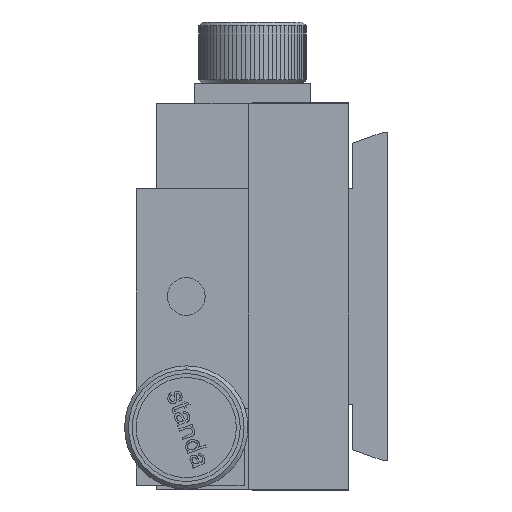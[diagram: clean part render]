
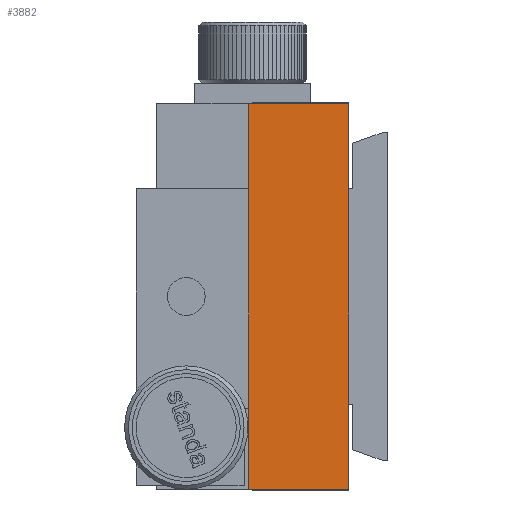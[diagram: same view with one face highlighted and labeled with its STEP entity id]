
A CAD part, left-side view. The second image highlights one B-rep face of the part: STEP entity #3882.
In plain terms, the highlighted planar face has unit normal (-1, 0, 0).
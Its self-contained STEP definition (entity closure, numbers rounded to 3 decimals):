
#3464 = EDGE_CURVE ( 'NONE', #3465, #3466, #9504, .T. ) ;
#3465 = VERTEX_POINT ( 'NONE', #9495 ) ;
#3466 = VERTEX_POINT ( 'NONE', #9492 ) ;
#3875 = EDGE_CURVE ( 'NONE', #3466, #3876, #11357, .T. ) ;
#3876 = VERTEX_POINT ( 'NONE', #11351 ) ;
#3882 = ADVANCED_FACE ( 'NONE', ( #11342 ), #11340, .F. ) ;
#3883 = EDGE_LOOP ( 'NONE', ( #3941, #3942, #3943, #3946 ) ) ;
#3941 = ORIENTED_EDGE ( 'NONE', *, *, #3875, .F. ) ;
#3942 = ORIENTED_EDGE ( 'NONE', *, *, #3464, .F. ) ;
#3943 = ORIENTED_EDGE ( 'NONE', *, *, #3944, .F. ) ;
#3944 = EDGE_CURVE ( 'NONE', #3945, #3465, #11448, .T. ) ;
#3945 = VERTEX_POINT ( 'NONE', #11443 ) ;
#3946 = ORIENTED_EDGE ( 'NONE', *, *, #3947, .F. ) ;
#3947 = EDGE_CURVE ( 'NONE', #3876, #3945, #11442, .T. ) ;
#9492 = CARTESIAN_POINT ( 'NONE',  ( 2., 9.852, 50. ) ) ;
#9495 = CARTESIAN_POINT ( 'NONE',  ( 2., 9.852, 0. ) ) ;
#9498 = DIRECTION ( 'NONE',  ( 0., 0., 1. ) ) ;
#9500 = VECTOR ( 'NONE', #9498, 1000. ) ;
#9502 = CARTESIAN_POINT ( 'NONE',  ( 2., 9.852, 25. ) ) ;
#9504 = LINE ( 'NONE', #9502, #9500 ) ;
#11334 = DIRECTION ( 'NONE',  ( 0., 1., 0. ) ) ;
#11336 = DIRECTION ( 'NONE',  ( 1., 0., 0. ) ) ;
#11338 = CARTESIAN_POINT ( 'NONE',  ( 2., 3.352, 25. ) ) ;
#11339 = AXIS2_PLACEMENT_3D ( 'NONE', #11338, #11336, #11334 ) ;
#11340 = PLANE ( 'NONE',  #11339 ) ;
#11342 = FACE_OUTER_BOUND ( 'NONE', #3883, .T. ) ;
#11351 = CARTESIAN_POINT ( 'NONE',  ( 2., -3.148, 50. ) ) ;
#11354 = DIRECTION ( 'NONE',  ( 0., -1., 0. ) ) ;
#11355 = VECTOR ( 'NONE', #11354, 1000. ) ;
#11356 = CARTESIAN_POINT ( 'NONE',  ( 2., 3.352, 50. ) ) ;
#11357 = LINE ( 'NONE', #11356, #11355 ) ;
#11439 = DIRECTION ( 'NONE',  ( 0., 0., -1. ) ) ;
#11440 = VECTOR ( 'NONE', #11439, 1000. ) ;
#11441 = CARTESIAN_POINT ( 'NONE',  ( 2., -3.148, 23.231 ) ) ;
#11442 = LINE ( 'NONE', #11441, #11440 ) ;
#11443 = CARTESIAN_POINT ( 'NONE',  ( 2., -3.148, 0. ) ) ;
#11444 = DIRECTION ( 'NONE',  ( 0., 1., 0. ) ) ;
#11446 = VECTOR ( 'NONE', #11444, 1000. ) ;
#11447 = CARTESIAN_POINT ( 'NONE',  ( 2., 9.852, 0. ) ) ;
#11448 = LINE ( 'NONE', #11447, #11446 ) ;
